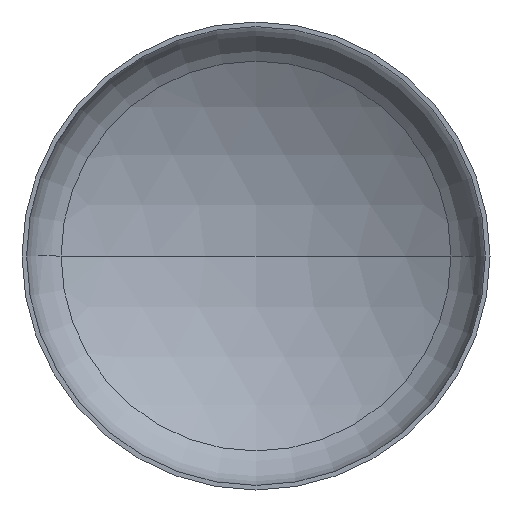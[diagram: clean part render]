
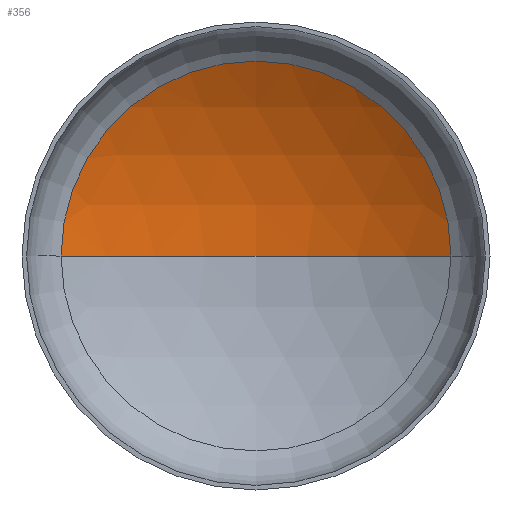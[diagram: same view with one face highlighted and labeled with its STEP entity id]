
A CAD part, front view. The second image highlights one B-rep face of the part: STEP entity #356.
In plain terms, the highlighted spherical face has radius 4400 mm.
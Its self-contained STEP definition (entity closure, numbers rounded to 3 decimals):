
#21 = ORIENTED_EDGE ( 'NONE', *, *, #319, .T. ) ;
#57 = ORIENTED_EDGE ( 'NONE', *, *, #305, .T. ) ;
#64 = VERTEX_POINT ( 'NONE', #274 ) ;
#72 = EDGE_LOOP ( 'NONE', ( #223, #57, #21 ) ) ;
#101 = SPHERICAL_SURFACE ( 'NONE', #307, 4400. ) ;
#116 = CIRCLE ( 'NONE', #209, 2290.97 ) ;
#118 = VERTEX_POINT ( 'NONE', #237 ) ;
#127 = AXIS2_PLACEMENT_3D ( 'NONE', #311, #312, #138 ) ;
#131 = CIRCLE ( 'NONE', #127, 4400. ) ;
#138 = DIRECTION ( 'NONE',  ( 1., 0., 0. ) ) ;
#139 = DIRECTION ( 'NONE',  ( -1., 0., 0. ) ) ;
#141 = DIRECTION ( 'NONE',  ( 0., 0., -1. ) ) ;
#147 = CARTESIAN_POINT ( 'NONE',  ( 0., -2915.099, 0. ) ) ;
#155 = CARTESIAN_POINT ( 'NONE',  ( 0., -2915.099, 0. ) ) ;
#168 = AXIS2_PLACEMENT_3D ( 'NONE', #147, #141, #139 ) ;
#177 = DIRECTION ( 'NONE',  ( 1., 0., 0. ) ) ;
#181 = DIRECTION ( 'NONE',  ( 0., -1., 0. ) ) ;
#186 = CARTESIAN_POINT ( 'NONE',  ( 0., 841.423, 0. ) ) ;
#197 = DIRECTION ( 'NONE',  ( -1., 0., 0. ) ) ;
#209 = AXIS2_PLACEMENT_3D ( 'NONE', #186, #181, #177 ) ;
#223 = ORIENTED_EDGE ( 'NONE', *, *, #282, .F. ) ;
#237 = CARTESIAN_POINT ( 'NONE',  ( -2290.97, 841.423, 0. ) ) ;
#271 = CARTESIAN_POINT ( 'NONE',  ( 0., 1484.901, 0. ) ) ;
#274 = CARTESIAN_POINT ( 'NONE',  ( 2290.97, 841.423, 0. ) ) ;
#281 = FACE_OUTER_BOUND ( 'NONE', #72, .T. ) ;
#282 = EDGE_CURVE ( 'NONE', #359, #118, #131, .T. ) ;
#289 = CIRCLE ( 'NONE', #168, 4400. ) ;
#292 = DIRECTION ( 'NONE',  ( 0., 0., -1. ) ) ;
#305 = EDGE_CURVE ( 'NONE', #359, #64, #289, .T. ) ;
#307 = AXIS2_PLACEMENT_3D ( 'NONE', #155, #292, #197 ) ;
#311 = CARTESIAN_POINT ( 'NONE',  ( 0., -2915.099, 0. ) ) ;
#312 = DIRECTION ( 'NONE',  ( 0., 0., 1. ) ) ;
#319 = EDGE_CURVE ( 'NONE', #64, #118, #116, .T. ) ;
#356 = ADVANCED_FACE ( 'NONE', ( #281 ), #101, .F. ) ;
#359 = VERTEX_POINT ( 'NONE', #271 ) ;
